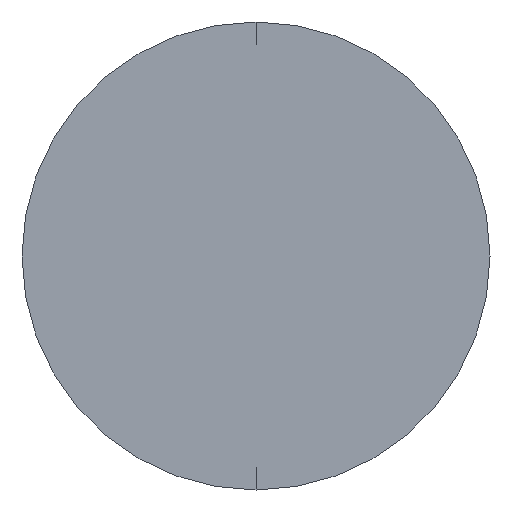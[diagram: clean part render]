
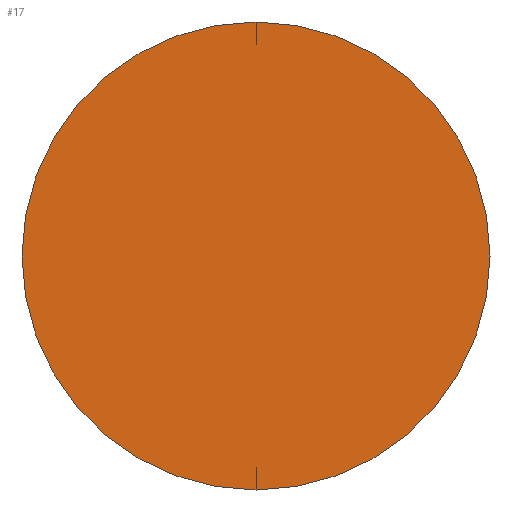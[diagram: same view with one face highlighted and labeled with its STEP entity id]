
A CAD part, left-side view. The second image highlights one B-rep face of the part: STEP entity #17.
In plain terms, the highlighted planar face has unit normal (-1, 0, 0).
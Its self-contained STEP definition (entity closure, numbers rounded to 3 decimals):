
#8 = VERTEX_POINT ( 'NONE', #273 ) ;
#17 = ADVANCED_FACE ( 'NONE', ( #179 ), #57, .F. ) ;
#20 = DIRECTION ( 'NONE',  ( 0., 0., 1. ) ) ;
#42 = DIRECTION ( 'NONE',  ( -1., 0., 0. ) ) ;
#55 = CIRCLE ( 'NONE', #101, 1.75 ) ;
#57 = PLANE ( 'NONE',  #168 ) ;
#73 = VERTEX_POINT ( 'NONE', #85 ) ;
#85 = CARTESIAN_POINT ( 'NONE',  ( 0., 0., -1.75 ) ) ;
#101 = AXIS2_PLACEMENT_3D ( 'NONE', #259, #42, #20 ) ;
#110 = AXIS2_PLACEMENT_3D ( 'NONE', #123, #253, #203 ) ;
#123 = CARTESIAN_POINT ( 'NONE',  ( 0., 0., 0. ) ) ;
#147 = EDGE_CURVE ( 'NONE', #8, #73, #55, .T. ) ;
#154 = ORIENTED_EDGE ( 'NONE', *, *, #178, .T. ) ;
#155 = DIRECTION ( 'NONE',  ( 1., 0., 0. ) ) ;
#164 = CARTESIAN_POINT ( 'NONE',  ( 0., 0., 0. ) ) ;
#168 = AXIS2_PLACEMENT_3D ( 'NONE', #164, #155, #289 ) ;
#178 = EDGE_CURVE ( 'NONE', #73, #8, #281, .T. ) ;
#179 = FACE_OUTER_BOUND ( 'NONE', #243, .T. ) ;
#192 = ORIENTED_EDGE ( 'NONE', *, *, #147, .T. ) ;
#203 = DIRECTION ( 'NONE',  ( 0., 0., 1. ) ) ;
#243 = EDGE_LOOP ( 'NONE', ( #192, #154 ) ) ;
#253 = DIRECTION ( 'NONE',  ( -1., 0., 0. ) ) ;
#259 = CARTESIAN_POINT ( 'NONE',  ( 0., 0., 0. ) ) ;
#273 = CARTESIAN_POINT ( 'NONE',  ( 0., 0., 1.75 ) ) ;
#281 = CIRCLE ( 'NONE', #110, 1.75 ) ;
#289 = DIRECTION ( 'NONE',  ( 0., 0., -1. ) ) ;
